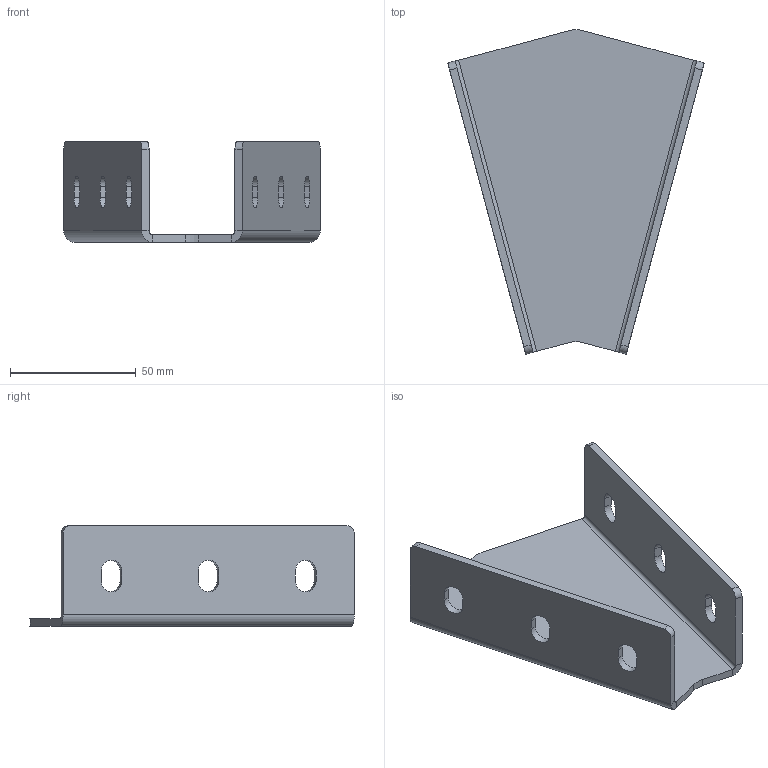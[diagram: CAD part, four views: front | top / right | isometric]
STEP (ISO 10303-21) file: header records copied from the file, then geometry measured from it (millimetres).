
FILE_DESCRIPTION (( 'STEP AP214' ), '1' );
FILE_NAME ('4012030.STEP', '2018-02-28T08:43:39', ( '' ), ( '' ), 'SwSTEP 2.0', 'SolidWorks 2014', '' );
FILE_SCHEMA (( 'AUTOMOTIVE_DESIGN' ));
Length unit declared in the file: millimetre
Products named in the file (2): 4012030
Bounding box: 102.12 x 129.2 x 40 mm (x, y, z)
Volume: 50539.7 mm3; surface area: 35891.6 mm2
Topology: 1 solids, 1 shells, 54 faces, 140 edges, 88 vertices
Faces by surface type: plane 32, cylinder 22
Entity records: 1713 total; most frequent: DIRECTION 296, CARTESIAN_POINT 284, ORIENTED_EDGE 280, EDGE_CURVE 140, AXIS2_PLACEMENT_3D 100, LINE 96, VECTOR 96, VERTEX_POINT 88
